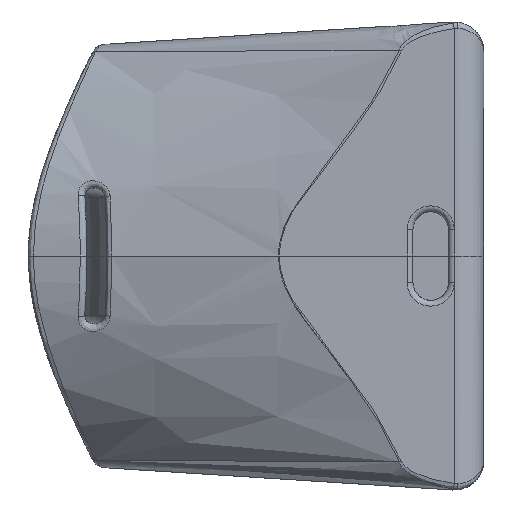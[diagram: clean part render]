
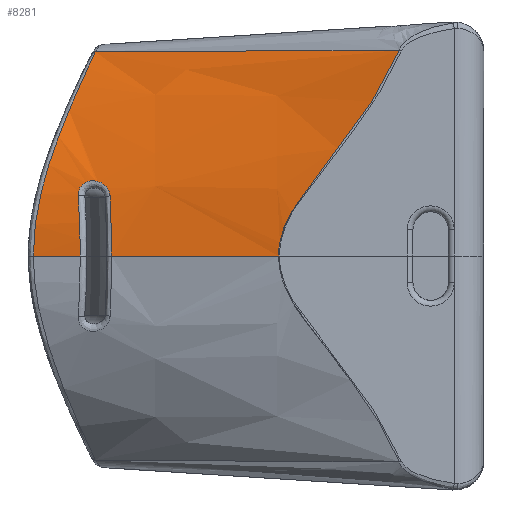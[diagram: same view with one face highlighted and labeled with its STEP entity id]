
A CAD part, left-side view. The second image highlights one B-rep face of the part: STEP entity #8281.
In plain terms, the highlighted free-form (B-spline) face has degree [3, 3] with [7, 4] control points.
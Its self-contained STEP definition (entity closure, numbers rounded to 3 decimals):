
#1535=FACE_OUTER_BOUND('',#2089,.T.);
#2089=EDGE_LOOP('',(#6366,#6367,#6368,#6369,#6370,#6371,#6372,#6373));
#2993=B_SPLINE_CURVE_WITH_KNOTS('',3,(#13377,#13378,#13379,#13380),
 .UNSPECIFIED.,.F.,.F.,(4,4),(-6.451,-5.649),
 .UNSPECIFIED.);
#2998=B_SPLINE_CURVE_WITH_KNOTS('',3,(#13484,#13485,#13486,#13487,#13488,
#13489),.UNSPECIFIED.,.F.,.F.,(4,2,4),(-5.114,-3.357,
-2.252),.UNSPECIFIED.);
#3062=B_SPLINE_CURVE_WITH_KNOTS('',3,(#15697,#15698,#15699,#15700,#15701,
#15702,#15703,#15704),.UNSPECIFIED.,.F.,.F.,(4,1,1,1,1,4),(-8.191,
-7.022,-6.437,-5.268,-4.684,
-4.099),.UNSPECIFIED.);
#3093=B_SPLINE_CURVE_WITH_KNOTS('',3,(#16335,#16336,#16337,#16338,#16339,
#16340,#16341,#16342),.UNSPECIFIED.,.F.,.F.,(4,1,1,1,1,4),(-4.09,
-3.532,-2.974,-1.858,-1.3,
-0.184),.UNSPECIFIED.);
#3095=B_SPLINE_CURVE_WITH_KNOTS('',3,(#16382,#16383,#16384,#16385),
 .UNSPECIFIED.,.F.,.F.,(4,4),(-2.019,-1.009),
 .UNSPECIFIED.);
#3096=B_SPLINE_CURVE_WITH_KNOTS('',3,(#16387,#16388,#16389,#16390,#16391,
#16392,#16393,#16394),.UNSPECIFIED.,.F.,.F.,(4,1,1,1,1,4),(-0.838,
-0.599,-0.359,-0.239,-0.12,
0.),.UNSPECIFIED.);
#3097=B_SPLINE_CURVE_WITH_KNOTS('',3,(#16395,#16396,#16397,#16398),
 .UNSPECIFIED.,.F.,.F.,(4,4),(-1.008,0.),.UNSPECIFIED.);
#3098=B_SPLINE_CURVE_WITH_KNOTS('',3,(#16399,#16400,#16401,#16402,#16403),
 .UNSPECIFIED.,.F.,.F.,(4,1,4),(1.421,4.175,6.921),
 .UNSPECIFIED.);
#3330=VERTEX_POINT('',#13334);
#3334=VERTEX_POINT('',#13366);
#3367=VERTEX_POINT('',#13476);
#3368=VERTEX_POINT('',#13483);
#3625=VERTEX_POINT('',#15695);
#3661=VERTEX_POINT('',#16334);
#3663=VERTEX_POINT('',#16381);
#3664=VERTEX_POINT('',#16386);
#4124=EDGE_CURVE('',#3330,#3334,#2993,.T.);
#4163=EDGE_CURVE('',#3368,#3367,#2998,.T.);
#4578=EDGE_CURVE('',#3625,#3367,#3062,.T.);
#4635=EDGE_CURVE('',#3330,#3661,#3093,.T.);
#4638=EDGE_CURVE('',#3663,#3334,#3095,.T.);
#4639=EDGE_CURVE('',#3664,#3663,#3096,.T.);
#4640=EDGE_CURVE('',#3368,#3664,#3097,.T.);
#4641=EDGE_CURVE('',#3661,#3625,#3098,.T.);
#6366=ORIENTED_EDGE('',*,*,#4124,.T.);
#6367=ORIENTED_EDGE('',*,*,#4638,.F.);
#6368=ORIENTED_EDGE('',*,*,#4639,.F.);
#6369=ORIENTED_EDGE('',*,*,#4640,.F.);
#6370=ORIENTED_EDGE('',*,*,#4163,.T.);
#6371=ORIENTED_EDGE('',*,*,#4578,.F.);
#6372=ORIENTED_EDGE('',*,*,#4641,.F.);
#6373=ORIENTED_EDGE('',*,*,#4635,.F.);
#7979=B_SPLINE_SURFACE_WITH_KNOTS('',3,3,((#16353,#16354,#16355,#16356),
(#16357,#16358,#16359,#16360),(#16361,#16362,#16363,#16364),(#16365,#16366,
#16367,#16368),(#16369,#16370,#16371,#16372),(#16373,#16374,#16375,#16376),
(#16377,#16378,#16379,#16380)),.UNSPECIFIED.,.F.,.F.,.F.,(4,1,1,1,4),(4,
4),(0.5,0.634,0.702,0.836,
0.971),(0.389,0.885),.UNSPECIFIED.);
#8281=ADVANCED_FACE('',(#1535),#7979,.F.);
#13334=CARTESIAN_POINT('',(-69.005,21.353,0.));
#13366=CARTESIAN_POINT('',(-70.148,13.414,0.));
#13377=CARTESIAN_POINT('Ctrl Pts',(-69.005,21.353,0.));
#13378=CARTESIAN_POINT('Ctrl Pts',(-69.386,18.706,0.));
#13379=CARTESIAN_POINT('Ctrl Pts',(-69.767,16.06,0.));
#13380=CARTESIAN_POINT('Ctrl Pts',(-70.148,13.414,0.));
#13476=CARTESIAN_POINT('',(-74.99,-20.207,0.));
#13483=CARTESIAN_POINT('',(-70.911,8.116,0.));
#13484=CARTESIAN_POINT('Ctrl Pts',(-70.911,8.116,0.));
#13485=CARTESIAN_POINT('Ctrl Pts',(-71.746,2.319,0.));
#13486=CARTESIAN_POINT('Ctrl Pts',(-72.581,-3.477,
0.));
#13487=CARTESIAN_POINT('Ctrl Pts',(-73.94,-12.918,
0.));
#13488=CARTESIAN_POINT('Ctrl Pts',(-74.465,-16.562,
0.));
#13489=CARTESIAN_POINT('Ctrl Pts',(-74.99,-20.207,0.));
#15695=CARTESIAN_POINT('',(-74.931,-40.662,34.903));
#15697=CARTESIAN_POINT('Ctrl Pts',(-74.931,-40.662,
34.903));
#15698=CARTESIAN_POINT('Ctrl Pts',(-74.942,-39.145,
31.339));
#15699=CARTESIAN_POINT('Ctrl Pts',(-74.954,-36.297,
26.242));
#15700=CARTESIAN_POINT('Ctrl Pts',(-74.969,-30.531,18.419));
#15701=CARTESIAN_POINT('Ctrl Pts',(-74.979,-25.453,
12.5));
#15702=CARTESIAN_POINT('Ctrl Pts',(-74.988,-21.237,
5.864));
#15703=CARTESIAN_POINT('Ctrl Pts',(-74.99,-20.207,1.972));
#15704=CARTESIAN_POINT('Ctrl Pts',(-74.99,-20.207,0.));
#16334=CARTESIAN_POINT('',(-55.219,10.819,34.608));
#16335=CARTESIAN_POINT('Ctrl Pts',(-69.005,21.353,0.));
#16336=CARTESIAN_POINT('Ctrl Pts',(-69.005,21.353,1.903));
#16337=CARTESIAN_POINT('Ctrl Pts',(-68.797,21.091,5.706));
#16338=CARTESIAN_POINT('Ctrl Pts',(-67.575,19.633,13.09));
#16339=CARTESIAN_POINT('Ctrl Pts',(-65.256,17.24,19.962));
#16340=CARTESIAN_POINT('Ctrl Pts',(-61.085,13.986,27.827));
#16341=CARTESIAN_POINT('Ctrl Pts',(-57.797,12.034,32.091));
#16342=CARTESIAN_POINT('Ctrl Pts',(-55.219,10.819,34.608));
#16353=CARTESIAN_POINT('Ctrl Pts',(-69.005,21.353,0.));
#16354=CARTESIAN_POINT('Ctrl Pts',(-71.982,0.682,
0.));
#16355=CARTESIAN_POINT('Ctrl Pts',(-74.959,-19.99,0.));
#16356=CARTESIAN_POINT('Ctrl Pts',(-77.935,-40.662,
0.));
#16357=CARTESIAN_POINT('Ctrl Pts',(-69.005,21.353,4.149));
#16358=CARTESIAN_POINT('Ctrl Pts',(-71.981,0.682,
3.996));
#16359=CARTESIAN_POINT('Ctrl Pts',(-74.96,-19.99,
3.845));
#16360=CARTESIAN_POINT('Ctrl Pts',(-77.935,-40.662,
3.692));
#16361=CARTESIAN_POINT('Ctrl Pts',(-68.117,21.353,10.369));
#16362=CARTESIAN_POINT('Ctrl Pts',(-71.334,0.682,
9.989));
#16363=CARTESIAN_POINT('Ctrl Pts',(-74.551,-19.99,
9.609));
#16364=CARTESIAN_POINT('Ctrl Pts',(-77.769,-40.662,
9.23));
#16365=CARTESIAN_POINT('Ctrl Pts',(-64.629,21.353,19.838));
#16366=CARTESIAN_POINT('Ctrl Pts',(-68.79,0.682,
19.322));
#16367=CARTESIAN_POINT('Ctrl Pts',(-72.953,-19.99,
18.807));
#16368=CARTESIAN_POINT('Ctrl Pts',(-77.114,-40.662,
18.291));
#16369=CARTESIAN_POINT('Ctrl Pts',(-59.368,21.353,27.999));
#16370=CARTESIAN_POINT('Ctrl Pts',(-64.954,0.682,27.701));
#16371=CARTESIAN_POINT('Ctrl Pts',(-70.54,-19.99,
27.404));
#16372=CARTESIAN_POINT('Ctrl Pts',(-76.126,-40.662,
27.106));
#16373=CARTESIAN_POINT('Ctrl Pts',(-53.994,21.353,32.472));
#16374=CARTESIAN_POINT('Ctrl Pts',(-61.035,0.682,
32.905));
#16375=CARTESIAN_POINT('Ctrl Pts',(-68.075,-19.99,
33.339));
#16376=CARTESIAN_POINT('Ctrl Pts',(-75.116,-40.662,
33.772));
#16377=CARTESIAN_POINT('Ctrl Pts',(-51.253,21.353,34.12));
#16378=CARTESIAN_POINT('Ctrl Pts',(-59.036,0.682,
35.078));
#16379=CARTESIAN_POINT('Ctrl Pts',(-66.819,-19.99,
36.037));
#16380=CARTESIAN_POINT('Ctrl Pts',(-74.602,-40.662,
36.995));
#16381=CARTESIAN_POINT('',(-68.996,13.758,10.212));
#16382=CARTESIAN_POINT('Ctrl Pts',(-68.996,13.758,10.212));
#16383=CARTESIAN_POINT('Ctrl Pts',(-69.768,13.506,6.872));
#16384=CARTESIAN_POINT('Ctrl Pts',(-70.148,13.414,3.435));
#16385=CARTESIAN_POINT('Ctrl Pts',(-70.148,13.414,0.));
#16386=CARTESIAN_POINT('',(-69.847,8.342,10.199));
#16387=CARTESIAN_POINT('Ctrl Pts',(-69.847,8.342,10.199));
#16388=CARTESIAN_POINT('Ctrl Pts',(-69.677,8.381,10.994));
#16389=CARTESIAN_POINT('Ctrl Pts',(-69.191,9.266,12.438));
#16390=CARTESIAN_POINT('Ctrl Pts',(-68.712,11.296,12.946));
#16391=CARTESIAN_POINT('Ctrl Pts',(-68.62,12.831,12.369));
#16392=CARTESIAN_POINT('Ctrl Pts',(-68.735,13.647,11.422));
#16393=CARTESIAN_POINT('Ctrl Pts',(-68.904,13.788,10.608));
#16394=CARTESIAN_POINT('Ctrl Pts',(-68.996,13.758,10.212));
#16395=CARTESIAN_POINT('Ctrl Pts',(-70.911,8.116,0.));
#16396=CARTESIAN_POINT('Ctrl Pts',(-70.911,8.116,3.425));
#16397=CARTESIAN_POINT('Ctrl Pts',(-70.56,8.176,6.851));
#16398=CARTESIAN_POINT('Ctrl Pts',(-69.847,8.342,10.199));
#16399=CARTESIAN_POINT('Ctrl Pts',(-55.219,10.819,34.608));
#16400=CARTESIAN_POINT('Ctrl Pts',(-58.752,2.311,34.736));
#16401=CARTESIAN_POINT('Ctrl Pts',(-65.568,-14.782,
34.772));
#16402=CARTESIAN_POINT('Ctrl Pts',(-71.854,-32.034,
34.825));
#16403=CARTESIAN_POINT('Ctrl Pts',(-74.932,-40.662,34.905));
